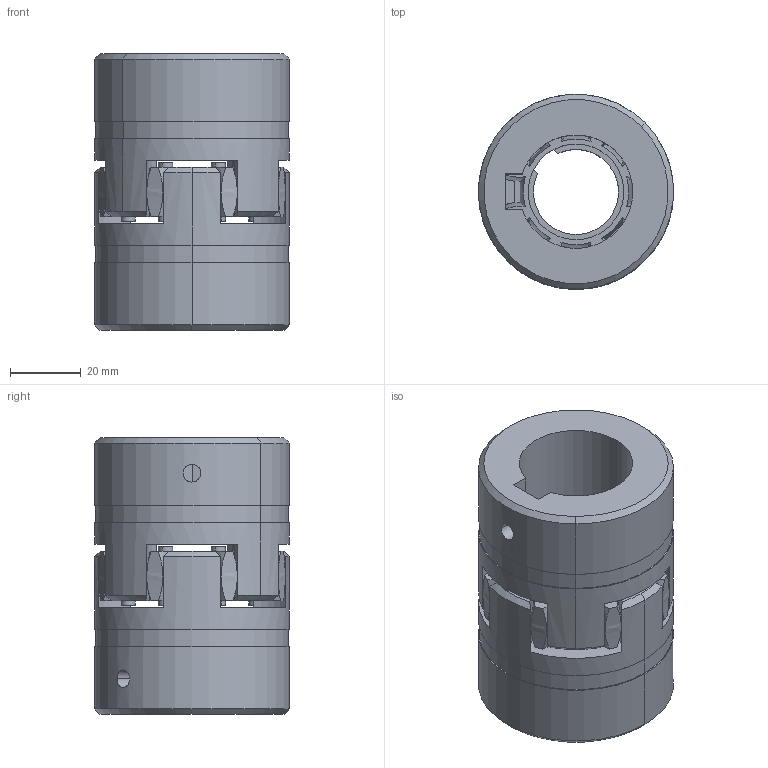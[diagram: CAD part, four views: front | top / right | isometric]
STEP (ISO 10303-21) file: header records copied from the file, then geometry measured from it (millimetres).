
FILE_DESCRIPTION (( 'STEP AP214' ), '1' );
FILE_NAME ('Po³¹czenie Rotex 24-32.STEP', '2026-06-01T07:12:10', ( '' ), ( '' ), 'SwSTEP 2.0', 'SolidWorks 2022', '' );
FILE_SCHEMA (( 'AUTOMOTIVE_DESIGN' ));
Length unit declared in the file: millimetre
Products named in the file (5): Rotex 24.stp.STEP; __cznik Rotex 24.stp.STEP; Rotex 24.stp-0.STEP; Po³¹czenie Rotex 24-32; Sprz璕這 Rotex 24.STEP
Assembly tree (4 placements, depth 3):
  Po³¹czenie Rotex 24-32
    Sprz璕這 Rotex 24.STEP
      Rotex 24.stp.STEP
      __cznik Rotex 24.stp.STEP
      Rotex 24.stp-0.STEP
Bounding box: 55 x 55 x 78 mm (x, y, z)
Volume: 125661.7 mm3; surface area: 35286.5 mm2
Topology: 3 solids, 3 shells, 143 faces, 369 edges, 244 vertices
Faces by surface type: cylinder 65, plane 32, bspline 32, cone 14
Entity records: 6769 total; most frequent: CARTESIAN_POINT 3250, ORIENTED_EDGE 738, DIRECTION 659, EDGE_CURVE 369, AXIS2_PLACEMENT_3D 289, VERTEX_POINT 244, CIRCLE 170, EDGE_LOOP 165
